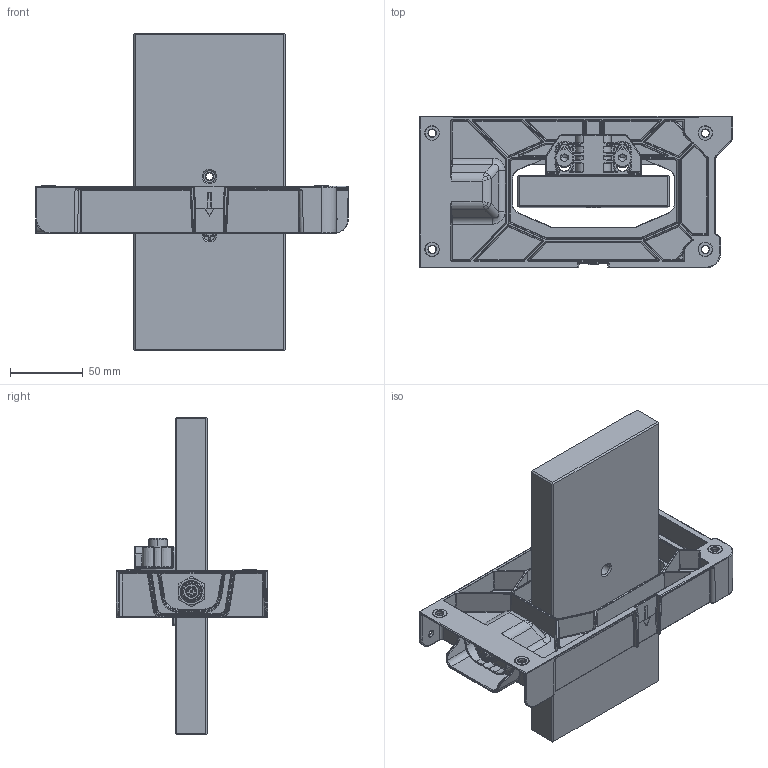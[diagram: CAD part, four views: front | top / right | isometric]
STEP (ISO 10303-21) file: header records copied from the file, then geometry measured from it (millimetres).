
FILE_DESCRIPTION(('Creo Elements/Direct Modeling STEP Export'),'2;1');
FILE_NAME('BBox_XXXX-SBI_27012023.stp','2023-01-27T14:17:11',(''),(''),'Creo Elements/Direct Modeling STEP processor for AP214 (Solid Model)','Creo Elements/Direct Modeling 20.1 10-Mar-2018 (C) Parametric Technology GmbH','');
FILE_SCHEMA(('AUTOMOTIVE_DESIGN { 1 0 10303 214 1 1 1 1 }'));
Length unit declared in the file: millimetre
Products named in the file (6): Busbar_104x22_Not-Provided-with-transducer; Bracket-A.1; BBox-FFA_012023
Assembly tree (3 placements, depth 2):
  Busbar_104x22_Not-Provided-with-transducer
    Busbar_104x22_Not-Provided-with-transducer
  Bracket-A.1
    Bracket-A.1
  BBox-FFA_012023
    BBox-FFA_012023
Bounding box: 215.43 x 104.43 x 218.8 mm (x, y, z)
Volume: 784961.1 mm3; surface area: 172409.9 mm2
Topology: 3 solids, 3 shells, 2387 faces, 5639 edges, 3185 vertices
Faces by surface type: cylinder 834, bspline 807, plane 417, cone 134, torus 102, sphere 93
Entity records: 147519 total; most frequent: CARTESIAN_POINT 103022, ORIENTED_EDGE 11006, DIRECTION 6194, EDGE_CURVE 5503, VERTEX_POINT 3185, EDGE_LOOP 2474, FACE_OUTER_BOUND 2387, ADVANCED_FACE 2387
